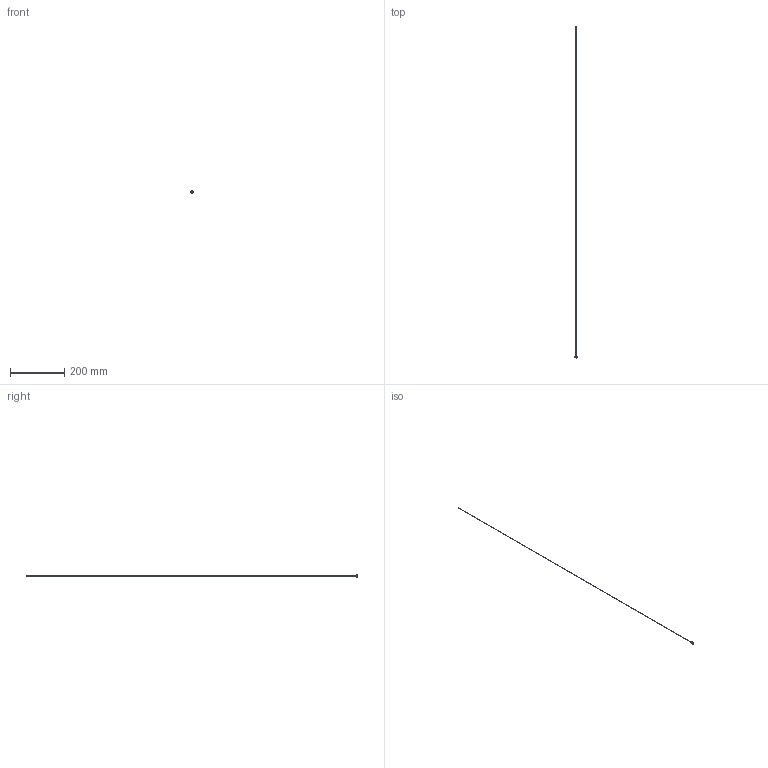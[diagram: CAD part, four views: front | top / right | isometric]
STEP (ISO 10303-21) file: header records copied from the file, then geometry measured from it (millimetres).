
FILE_DESCRIPTION(/* description */ (''),/* implementation_level */ '2;1');
FILE_NAME(/* name */ 'C:/Users/drich/Desktop/cad/Cascades/Jet Cool/Components/Inner Tubes/PT16-050/PT16-050-48 v1.step',/* time_stamp */ '2020-01-10T15:10:41-06:00',/* author */ (''),/* organization */ (''),/* preprocessor_version */ 'ST-DEVELOPER v18',/* originating_system */ 'Autodesk Translation Framework v8.12.0.6',/* authorisation */ '');
FILE_SCHEMA (('AUTOMOTIVE_DESIGN { 1 0 10303 214 3 1 1 }'));
Length unit declared in the file: inch
Products named in the file (1): PT16-050-48
Bounding box: 7.62 x 1219.2 x 7.62 mm (x, y, z)
Volume: 694.1 mm3; surface area: 9198.3 mm2
Topology: 1 solids, 1 shells, 19 faces, 48 edges, 34 vertices
Faces by surface type: plane 11, cylinder 4, torus 2, cone 2
Full cylindrical faces by diameter (mm): 1.067 x1, 1.27 x1, 4.724 x1, 7.616 x1
Entity records: 633 total; most frequent: DIRECTION 112, CARTESIAN_POINT 102, ORIENTED_EDGE 96, EDGE_CURVE 48, AXIS2_PLACEMENT_3D 44, VERTEX_POINT 34, CIRCLE 24, EDGE_LOOP 24
